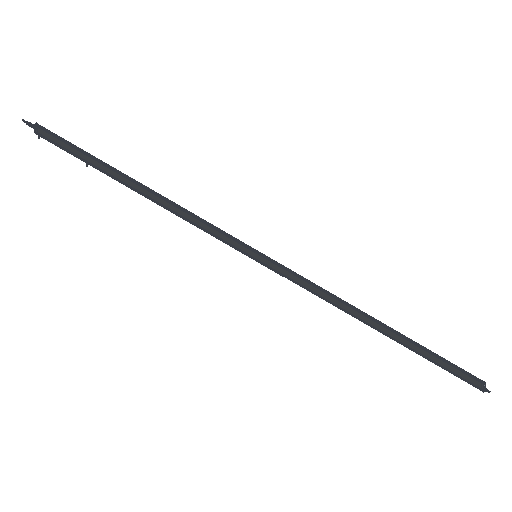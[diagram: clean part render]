
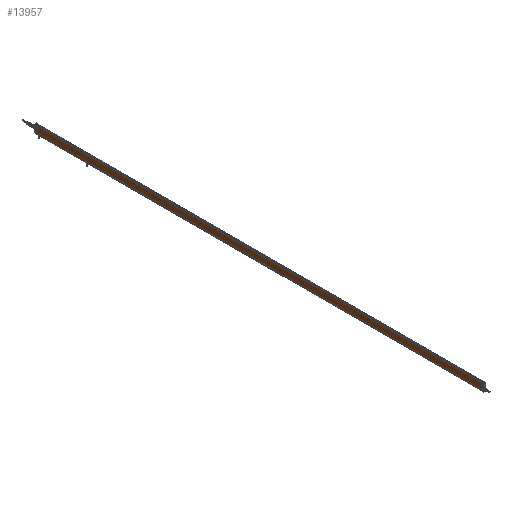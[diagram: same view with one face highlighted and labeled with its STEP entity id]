
A CAD part, isometric view. The second image highlights one B-rep face of the part: STEP entity #13957.
In plain terms, the highlighted planar face has unit normal (-1, 0, 0).
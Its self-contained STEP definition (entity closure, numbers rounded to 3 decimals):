
#274 = DIRECTION ( 'NONE',  ( -1., 0., 0. ) ) ;
#749 = VECTOR ( 'NONE', #17172, 1000. ) ;
#1796 = DIRECTION ( 'NONE',  ( 0., -1., 0. ) ) ;
#2249 = ORIENTED_EDGE ( 'NONE', *, *, #7598, .F. ) ;
#2306 = VECTOR ( 'NONE', #1796, 1000. ) ;
#4461 = FACE_OUTER_BOUND ( 'NONE', #23143, .T. ) ;
#4674 = CARTESIAN_POINT ( 'NONE',  ( -9., 1875., 28.5 ) ) ;
#4912 = CARTESIAN_POINT ( 'NONE',  ( -9., 0., 28.5 ) ) ;
#6654 = ORIENTED_EDGE ( 'NONE', *, *, #8079, .F. ) ;
#7578 = EDGE_CURVE ( 'NONE', #25617, #13365, #26789, .T. ) ;
#7598 = EDGE_CURVE ( 'NONE', #29306, #19438, #29622, .T. ) ;
#8079 = EDGE_CURVE ( 'NONE', #25617, #29306, #28743, .T. ) ;
#13365 = VERTEX_POINT ( 'NONE', #32591 ) ;
#13553 = CARTESIAN_POINT ( 'NONE',  ( -9., 0., 0.5 ) ) ;
#13957 = ADVANCED_FACE ( 'NONE', ( #4461 ), #21072, .T. ) ;
#14374 = VECTOR ( 'NONE', #16943, 1000. ) ;
#15534 = ORIENTED_EDGE ( 'NONE', *, *, #31102, .T. ) ;
#15836 = DIRECTION ( 'NONE',  ( 0., -1., 0. ) ) ;
#15989 = DIRECTION ( 'NONE',  ( 0., -1., 0. ) ) ;
#16155 = CARTESIAN_POINT ( 'NONE',  ( -9., 1875., 28.5 ) ) ;
#16943 = DIRECTION ( 'NONE',  ( 0., 0., -1. ) ) ;
#17172 = DIRECTION ( 'NONE',  ( 0., 0., -1. ) ) ;
#19438 = VERTEX_POINT ( 'NONE', #13553 ) ;
#19802 = CARTESIAN_POINT ( 'NONE',  ( -9., 0., 28.5 ) ) ;
#21072 = PLANE ( 'NONE',  #23810 ) ;
#22212 = CARTESIAN_POINT ( 'NONE',  ( -9., 1875., 28.5 ) ) ;
#23143 = EDGE_LOOP ( 'NONE', ( #2249, #6654, #31289, #15534 ) ) ;
#23810 = AXIS2_PLACEMENT_3D ( 'NONE', #16155, #274, #15836 ) ;
#23929 = VECTOR ( 'NONE', #15989, 1000. ) ;
#24428 = CARTESIAN_POINT ( 'NONE',  ( -9., 1875., 28.5 ) ) ;
#25617 = VERTEX_POINT ( 'NONE', #24428 ) ;
#26789 = LINE ( 'NONE', #22212, #749 ) ;
#28743 = LINE ( 'NONE', #4674, #2306 ) ;
#29306 = VERTEX_POINT ( 'NONE', #4912 ) ;
#29622 = LINE ( 'NONE', #19802, #14374 ) ;
#31102 = EDGE_CURVE ( 'NONE', #13365, #19438, #32224, .T. ) ;
#31289 = ORIENTED_EDGE ( 'NONE', *, *, #7578, .T. ) ;
#31652 = CARTESIAN_POINT ( 'NONE',  ( -9., 1875., 0.5 ) ) ;
#32224 = LINE ( 'NONE', #31652, #23929 ) ;
#32591 = CARTESIAN_POINT ( 'NONE',  ( -9., 1875., 0.5 ) ) ;
